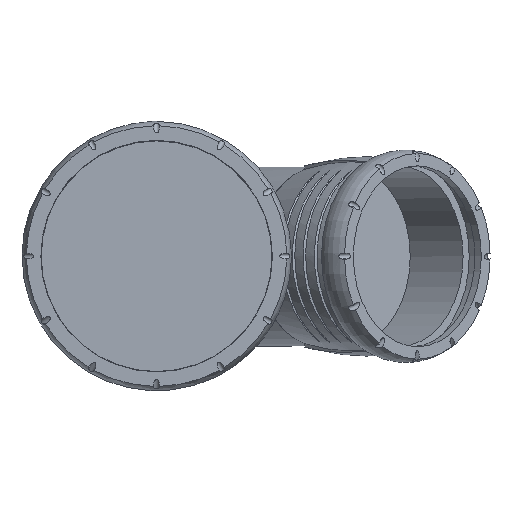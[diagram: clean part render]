
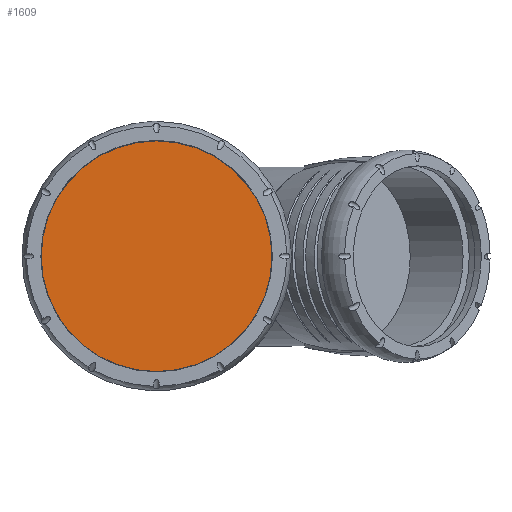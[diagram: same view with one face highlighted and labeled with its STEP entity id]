
A CAD part, top view. The second image highlights one B-rep face of the part: STEP entity #1609.
In plain terms, the highlighted planar face has unit normal (0, 0, 1).
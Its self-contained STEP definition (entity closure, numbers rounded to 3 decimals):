
#219=PLANE('',#1739);
#297=FACE_OUTER_BOUND('',#405,.T.);
#405=EDGE_LOOP('',(#1035));
#543=CIRCLE('',#1740,80.6);
#618=VERTEX_POINT('',#2362);
#790=EDGE_CURVE('',#618,#618,#543,.T.);
#1035=ORIENTED_EDGE('',*,*,#790,.T.);
#1609=ADVANCED_FACE('',(#297),#219,.T.);
#1739=AXIS2_PLACEMENT_3D('',#2361,#1934,#1935);
#1740=AXIS2_PLACEMENT_3D('',#2363,#1936,#1937);
#1934=DIRECTION('center_axis',(0.,0.,
1.));
#1935=DIRECTION('ref_axis',(0.,1.,0.));
#1936=DIRECTION('center_axis',(0.,0.,
1.));
#1937=DIRECTION('ref_axis',(0.,1.,0.));
#2361=CARTESIAN_POINT('Origin',(0.,0.,
279.));
#2362=CARTESIAN_POINT('',(-80.6,0.,279.));
#2363=CARTESIAN_POINT('Origin',(0.,0.,
279.));
